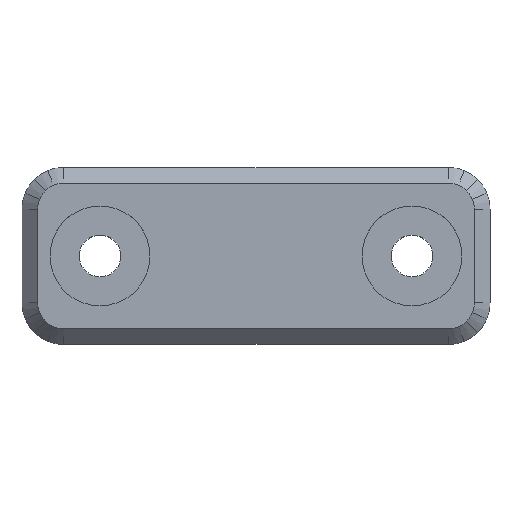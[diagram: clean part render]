
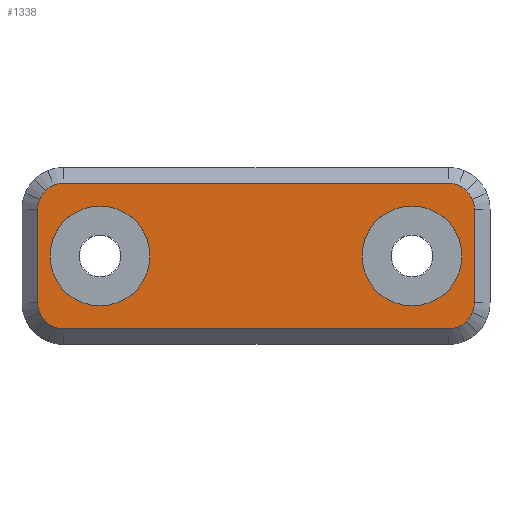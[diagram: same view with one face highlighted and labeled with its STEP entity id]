
A CAD part, top view. The second image highlights one B-rep face of the part: STEP entity #1338.
In plain terms, the highlighted planar face has unit normal (0, 0, 1).
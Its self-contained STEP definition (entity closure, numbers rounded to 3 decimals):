
#222=CARTESIAN_POINT('',(6.81,-19.457,5.6));
#223=VERTEX_POINT('',#222);
#239=CARTESIAN_POINT('',(7.,-18.5,5.6));
#240=VERTEX_POINT('',#239);
#247=CARTESIAN_POINT('',(4.5,-18.5,5.6));
#248=DIRECTION('',(0.0,0.0,-1.));
#249=DIRECTION('',(0.707,-0.707,0.0));
#250=AXIS2_PLACEMENT_3D('',#247,#248,#249);
#251=CIRCLE('',#250,2.5);
#252=EDGE_CURVE('',#240,#223,#251,.T.);
#264=CARTESIAN_POINT('',(-5.457,-20.81,5.6));
#265=VERTEX_POINT('',#264);
#281=CARTESIAN_POINT('',(-4.5,-21.0,5.6));
#282=VERTEX_POINT('',#281);
#289=CARTESIAN_POINT('',(-4.5,-18.5,5.6));
#290=DIRECTION('',(0.0,0.0,-1.));
#291=DIRECTION('',(-0.707,-0.707,0.0));
#292=AXIS2_PLACEMENT_3D('',#289,#290,#291);
#293=CIRCLE('',#292,2.5);
#294=EDGE_CURVE('',#282,#265,#293,.T.);
#306=CARTESIAN_POINT('',(5.457,20.81,5.6));
#307=VERTEX_POINT('',#306);
#323=CARTESIAN_POINT('',(4.5,21.0,5.6));
#324=VERTEX_POINT('',#323);
#331=CARTESIAN_POINT('',(4.5,18.5,5.6));
#332=DIRECTION('',(0.0,0.0,-1.));
#333=DIRECTION('',(0.707,0.707,0.0));
#334=AXIS2_PLACEMENT_3D('',#331,#332,#333);
#335=CIRCLE('',#334,2.5);
#336=EDGE_CURVE('',#324,#307,#335,.T.);
#348=CARTESIAN_POINT('',(-6.81,19.457,5.6));
#349=VERTEX_POINT('',#348);
#365=CARTESIAN_POINT('',(-7.0,18.5,5.6));
#366=VERTEX_POINT('',#365);
#373=CARTESIAN_POINT('',(-4.5,18.5,5.6));
#374=DIRECTION('',(0.0,0.0,-1.));
#375=DIRECTION('',(-0.707,0.707,0.0));
#376=AXIS2_PLACEMENT_3D('',#373,#374,#375);
#377=CIRCLE('',#376,2.5);
#378=EDGE_CURVE('',#366,#349,#377,.T.);
#390=CARTESIAN_POINT('',(-5.457,20.81,5.6));
#391=VERTEX_POINT('',#390);
#407=CARTESIAN_POINT('',(-6.268,20.268,5.6));
#408=VERTEX_POINT('',#407);
#415=CARTESIAN_POINT('',(-4.5,18.5,5.6));
#416=DIRECTION('',(0.0,0.0,-1.));
#417=DIRECTION('',(-0.707,0.707,0.0));
#418=AXIS2_PLACEMENT_3D('',#415,#416,#417);
#419=CIRCLE('',#418,2.5);
#420=EDGE_CURVE('',#408,#391,#419,.T.);
#432=CARTESIAN_POINT('',(6.81,19.457,5.6));
#433=VERTEX_POINT('',#432);
#449=CARTESIAN_POINT('',(6.268,20.268,5.6));
#450=VERTEX_POINT('',#449);
#457=CARTESIAN_POINT('',(4.5,18.5,5.6));
#458=DIRECTION('',(0.0,0.0,-1.));
#459=DIRECTION('',(0.707,0.707,0.0));
#460=AXIS2_PLACEMENT_3D('',#457,#458,#459);
#461=CIRCLE('',#460,2.5);
#462=EDGE_CURVE('',#450,#433,#461,.T.);
#474=CARTESIAN_POINT('',(-6.81,-19.457,5.6));
#475=VERTEX_POINT('',#474);
#491=CARTESIAN_POINT('',(-6.268,-20.268,5.6));
#492=VERTEX_POINT('',#491);
#499=CARTESIAN_POINT('',(-4.5,-18.5,5.6));
#500=DIRECTION('',(0.0,0.0,-1.));
#501=DIRECTION('',(-0.707,-0.707,0.0));
#502=AXIS2_PLACEMENT_3D('',#499,#500,#501);
#503=CIRCLE('',#502,2.5);
#504=EDGE_CURVE('',#492,#475,#503,.T.);
#516=CARTESIAN_POINT('',(5.457,-20.81,5.6));
#517=VERTEX_POINT('',#516);
#533=CARTESIAN_POINT('',(6.268,-20.268,5.6));
#534=VERTEX_POINT('',#533);
#541=CARTESIAN_POINT('',(4.5,-18.5,5.6));
#542=DIRECTION('',(0.0,0.0,-1.));
#543=DIRECTION('',(0.707,-0.707,0.0));
#544=AXIS2_PLACEMENT_3D('',#541,#542,#543);
#545=CIRCLE('',#544,2.5);
#546=EDGE_CURVE('',#534,#517,#545,.T.);
#638=CARTESIAN_POINT('',(0.,19.8,5.6));
#639=VERTEX_POINT('',#638);
#647=CARTESIAN_POINT('',(0.,10.2,5.6));
#648=VERTEX_POINT('',#647);
#649=CARTESIAN_POINT('',(0.,15.0,5.6));
#650=DIRECTION('',(0.0,0.0,-1.0));
#651=DIRECTION('',(0.0,-1.0,0.0));
#652=AXIS2_PLACEMENT_3D('',#649,#650,#651);
#653=CIRCLE('',#652,4.8);
#654=EDGE_CURVE('',#648,#639,#653,.T.);
#722=CARTESIAN_POINT('',(0.,-10.2,5.6));
#723=VERTEX_POINT('',#722);
#739=CARTESIAN_POINT('',(0.,-19.8,5.6));
#740=VERTEX_POINT('',#739);
#747=CARTESIAN_POINT('',(0.,-15.0,5.6));
#748=DIRECTION('',(0.0,0.0,-1.0));
#749=DIRECTION('',(0.0,1.0,0.0));
#750=AXIS2_PLACEMENT_3D('',#747,#748,#749);
#751=CIRCLE('',#750,4.8);
#752=EDGE_CURVE('',#723,#740,#751,.T.);
#919=CARTESIAN_POINT('',(4.5,-21.0,5.6));
#920=VERTEX_POINT('',#919);
#921=CARTESIAN_POINT('',(4.5,-18.5,5.6));
#922=DIRECTION('',(0.0,0.0,-1.));
#923=DIRECTION('',(0.707,-0.707,0.0));
#924=AXIS2_PLACEMENT_3D('',#921,#922,#923);
#925=CIRCLE('',#924,2.5);
#926=EDGE_CURVE('',#517,#920,#925,.T.);
#952=CARTESIAN_POINT('',(-7.,-18.5,5.6));
#953=VERTEX_POINT('',#952);
#954=CARTESIAN_POINT('',(-4.5,-18.5,5.6));
#955=DIRECTION('',(0.0,0.0,-1.));
#956=DIRECTION('',(-0.707,-0.707,0.0));
#957=AXIS2_PLACEMENT_3D('',#954,#955,#956);
#958=CIRCLE('',#957,2.5);
#959=EDGE_CURVE('',#475,#953,#958,.T.);
#985=CARTESIAN_POINT('',(7.0,18.5,5.6));
#986=VERTEX_POINT('',#985);
#987=CARTESIAN_POINT('',(4.5,18.5,5.6));
#988=DIRECTION('',(0.0,0.0,-1.));
#989=DIRECTION('',(0.707,0.707,0.0));
#990=AXIS2_PLACEMENT_3D('',#987,#988,#989);
#991=CIRCLE('',#990,2.5);
#992=EDGE_CURVE('',#433,#986,#991,.T.);
#1018=CARTESIAN_POINT('',(-4.5,21.0,5.6));
#1019=VERTEX_POINT('',#1018);
#1020=CARTESIAN_POINT('',(-4.5,18.5,5.6));
#1021=DIRECTION('',(0.0,0.0,-1.));
#1022=DIRECTION('',(-0.707,0.707,0.0));
#1023=AXIS2_PLACEMENT_3D('',#1020,#1021,#1022);
#1024=CIRCLE('',#1023,2.5);
#1025=EDGE_CURVE('',#391,#1019,#1024,.T.);
#1051=CARTESIAN_POINT('',(-4.5,21.0,5.6));
#1052=DIRECTION('',(1.0,0.0,0.0));
#1053=VECTOR('',#1052,9.0);
#1054=LINE('',#1051,#1053);
#1055=EDGE_CURVE('',#1019,#324,#1054,.T.);
#1073=CARTESIAN_POINT('',(-4.5,18.5,5.6));
#1074=DIRECTION('',(0.0,0.0,-1.));
#1075=DIRECTION('',(-0.707,0.707,0.0));
#1076=AXIS2_PLACEMENT_3D('',#1073,#1074,#1075);
#1077=CIRCLE('',#1076,2.5);
#1078=EDGE_CURVE('',#349,#408,#1077,.T.);
#1091=CARTESIAN_POINT('',(4.5,18.5,5.6));
#1092=DIRECTION('',(0.0,0.0,-1.));
#1093=DIRECTION('',(0.707,0.707,0.0));
#1094=AXIS2_PLACEMENT_3D('',#1091,#1092,#1093);
#1095=CIRCLE('',#1094,2.5);
#1096=EDGE_CURVE('',#307,#450,#1095,.T.);
#1109=CARTESIAN_POINT('',(-7.,-18.5,5.6));
#1110=DIRECTION('',(0.0,1.0,0.0));
#1111=VECTOR('',#1110,37.0);
#1112=LINE('',#1109,#1111);
#1113=EDGE_CURVE('',#953,#366,#1112,.T.);
#1138=CARTESIAN_POINT('',(7.0,18.5,5.6));
#1139=DIRECTION('',(0.0,-1.0,0.0));
#1140=VECTOR('',#1139,37.0);
#1141=LINE('',#1138,#1140);
#1142=EDGE_CURVE('',#986,#240,#1141,.T.);
#1153=CARTESIAN_POINT('',(-4.5,-18.5,5.6));
#1154=DIRECTION('',(0.0,0.0,-1.));
#1155=DIRECTION('',(-0.707,-0.707,0.0));
#1156=AXIS2_PLACEMENT_3D('',#1153,#1154,#1155);
#1157=CIRCLE('',#1156,2.5);
#1158=EDGE_CURVE('',#265,#492,#1157,.T.);
#1171=CARTESIAN_POINT('',(4.5,-18.5,5.6));
#1172=DIRECTION('',(0.0,0.0,-1.));
#1173=DIRECTION('',(0.707,-0.707,0.0));
#1174=AXIS2_PLACEMENT_3D('',#1171,#1172,#1173);
#1175=CIRCLE('',#1174,2.5);
#1176=EDGE_CURVE('',#223,#534,#1175,.T.);
#1196=CARTESIAN_POINT('',(4.5,-21.0,5.6));
#1197=DIRECTION('',(-1.0,0.0,0.0));
#1198=VECTOR('',#1197,9.);
#1199=LINE('',#1196,#1198);
#1200=EDGE_CURVE('',#920,#282,#1199,.T.);
#1291=CARTESIAN_POINT('',(-7.7,23.1,5.6));
#1292=DIRECTION('',(0.0,0.0,1.0));
#1293=DIRECTION('',(1.0,0.0,0.0));
#1294=AXIS2_PLACEMENT_3D('',#1291,#1292,#1293);
#1295=PLANE('',#1294);
#1296=ORIENTED_EDGE('',*,*,#1055,.F.);
#1297=ORIENTED_EDGE('',*,*,#1025,.F.);
#1298=ORIENTED_EDGE('',*,*,#420,.F.);
#1299=ORIENTED_EDGE('',*,*,#1078,.F.);
#1300=ORIENTED_EDGE('',*,*,#378,.F.);
#1301=ORIENTED_EDGE('',*,*,#1113,.F.);
#1302=ORIENTED_EDGE('',*,*,#959,.F.);
#1303=ORIENTED_EDGE('',*,*,#504,.F.);
#1304=ORIENTED_EDGE('',*,*,#1158,.F.);
#1305=ORIENTED_EDGE('',*,*,#294,.F.);
#1306=ORIENTED_EDGE('',*,*,#1200,.F.);
#1307=ORIENTED_EDGE('',*,*,#926,.F.);
#1308=ORIENTED_EDGE('',*,*,#546,.F.);
#1309=ORIENTED_EDGE('',*,*,#1176,.F.);
#1310=ORIENTED_EDGE('',*,*,#252,.F.);
#1311=ORIENTED_EDGE('',*,*,#1142,.F.);
#1312=ORIENTED_EDGE('',*,*,#992,.F.);
#1313=ORIENTED_EDGE('',*,*,#462,.F.);
#1314=ORIENTED_EDGE('',*,*,#1096,.F.);
#1315=ORIENTED_EDGE('',*,*,#336,.F.);
#1316=EDGE_LOOP('',(#1296,#1297,#1298,#1299,#1300,#1301,#1302,#1303,#1304,#1305,#1306,#1307,#1308,#1309,#1310,#1311,#1312,#1313,#1314,#1315));
#1317=FACE_OUTER_BOUND('',#1316,.T.);
#1318=ORIENTED_EDGE('',*,*,#654,.T.);
#1319=CARTESIAN_POINT('',(0.,15.0,5.6));
#1320=DIRECTION('',(0.0,0.0,-1.0));
#1321=DIRECTION('',(0.0,-1.0,0.0));
#1322=AXIS2_PLACEMENT_3D('',#1319,#1320,#1321);
#1323=CIRCLE('',#1322,4.8);
#1324=EDGE_CURVE('',#639,#648,#1323,.T.);
#1325=ORIENTED_EDGE('',*,*,#1324,.T.);
#1326=EDGE_LOOP('',(#1318,#1325));
#1327=FACE_BOUND('',#1326,.T.);
#1328=ORIENTED_EDGE('',*,*,#752,.T.);
#1329=CARTESIAN_POINT('',(0.,-15.0,5.6));
#1330=DIRECTION('',(0.0,0.0,-1.0));
#1331=DIRECTION('',(0.0,1.0,0.0));
#1332=AXIS2_PLACEMENT_3D('',#1329,#1330,#1331);
#1333=CIRCLE('',#1332,4.8);
#1334=EDGE_CURVE('',#740,#723,#1333,.T.);
#1335=ORIENTED_EDGE('',*,*,#1334,.T.);
#1336=EDGE_LOOP('',(#1328,#1335));
#1337=FACE_BOUND('',#1336,.T.);
#1338=ADVANCED_FACE('',(#1317,#1327,#1337),#1295,.T.);
